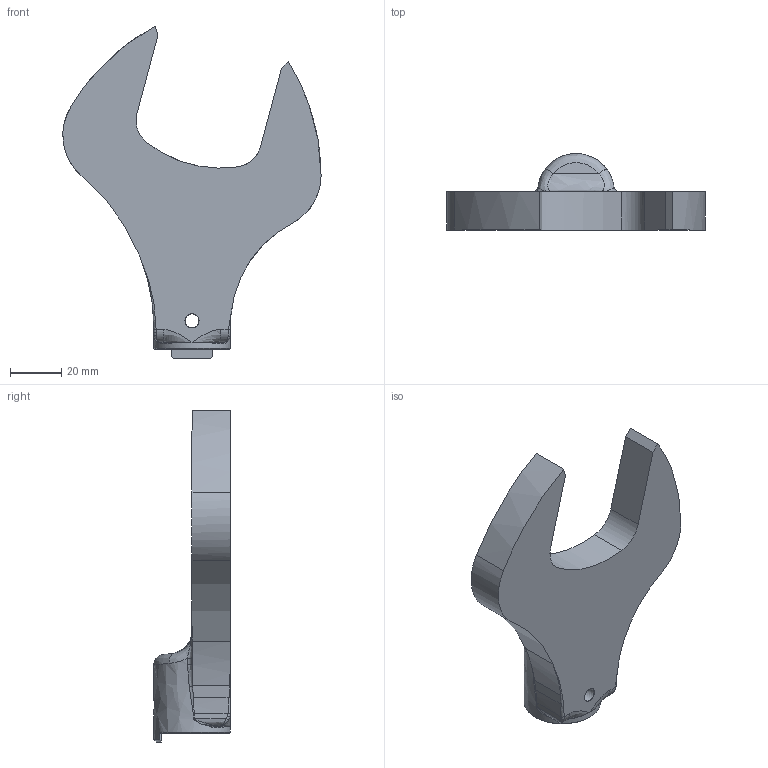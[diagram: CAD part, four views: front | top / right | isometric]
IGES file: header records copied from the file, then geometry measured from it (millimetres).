
Global section: file name: SH22DX50; native system: Autodesk Inventor 2016; preprocessor: unknown; author: Q600; date: 20151029.174428; units: millimetre
Bounding box: 100.9 x 30 x 129.73 mm (x, y, z)
Volume: 86588.6 mm3; surface area: 20861.5 mm2
Topology: 1 solids, 1 shells, 85 faces, 231 edges, 141 vertices
Faces by surface type: bspline 85
